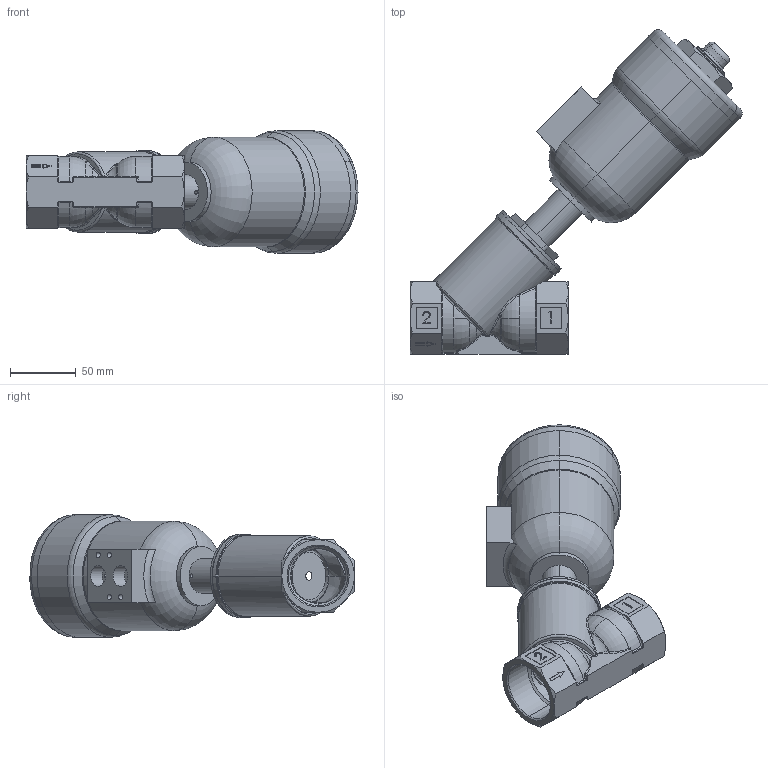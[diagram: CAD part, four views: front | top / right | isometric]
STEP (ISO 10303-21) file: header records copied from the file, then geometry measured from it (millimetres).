
FILE_DESCRIPTION (( 'STEP AP203' ), '1' );
FILE_NAME ('PCIPFM_040_2_1.STEP', '2018-04-20T09:24:08', ( 'user' ), ( '' ), 'SwSTEP 2.0', 'SolidWorks 2013', '' );
FILE_SCHEMA (( 'CONFIG_CONTROL_DESIGN' ));
Length unit declared in the file: millimetre
Products named in the file (1): PCIPFM_040_2_1
Bounding box: 251.8 x 246.3 x 93 mm (x, y, z)
Surface area: 108828.4 mm2 (no closed solid volume)
Topology: 0 solids, 8 shells, 378 faces, 1004 edges, 629 vertices
Faces by surface type: plane 143, cylinder 81, bspline 52, cone 49, torus 45, sphere 8
Entity records: 14728 total; most frequent: CARTESIAN_POINT 5728, ORIENTED_EDGE 1841, DIRECTION 1795, EDGE_CURVE 1002, AXIS2_PLACEMENT_3D 682, VERTEX_POINT 629, LINE 431, VECTOR 431
